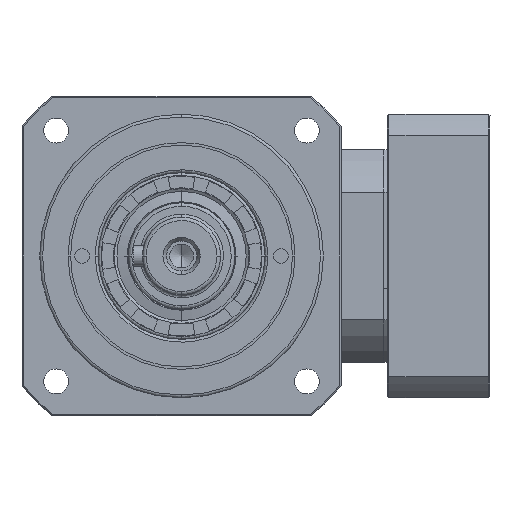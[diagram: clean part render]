
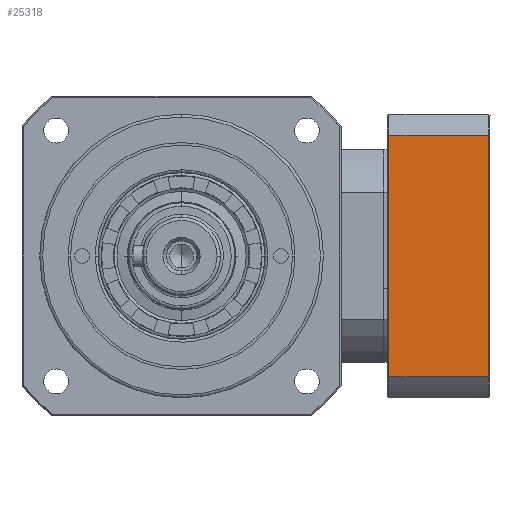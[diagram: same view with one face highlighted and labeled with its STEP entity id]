
A CAD part, left-side view. The second image highlights one B-rep face of the part: STEP entity #25318.
In plain terms, the highlighted planar face has unit normal (-1, 0, 0).
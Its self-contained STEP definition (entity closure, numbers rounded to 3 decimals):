
#973 = ORIENTED_EDGE ( 'NONE', *, *, #47470, .T. ) ;
#1813 = VERTEX_POINT ( 'NONE', #36368 ) ;
#9056 = CARTESIAN_POINT ( 'NONE',  ( 20.367, -79.693, 55.996 ) ) ;
#11210 = DIRECTION ( 'NONE',  ( 0., 0., 1. ) ) ;
#12325 = DIRECTION ( 'NONE',  ( 0., 0., 1. ) ) ;
#13663 = VECTOR ( 'NONE', #16896, 1000. ) ;
#14687 = CARTESIAN_POINT ( 'NONE',  ( 20.367, -65.693, 124.004 ) ) ;
#16896 = DIRECTION ( 'NONE',  ( 0., -1., 0. ) ) ;
#17425 = CARTESIAN_POINT ( 'NONE',  ( 20.367, -51.693, 90. ) ) ;
#17758 = FACE_OUTER_BOUND ( 'NONE', #83946, .T. ) ;
#20887 = LINE ( 'NONE', #21324, #24036 ) ;
#21324 = CARTESIAN_POINT ( 'NONE',  ( 20.367, -79.693, 90. ) ) ;
#24036 = VECTOR ( 'NONE', #12325, 1000. ) ;
#25178 = EDGE_CURVE ( 'NONE', #1813, #77115, #43526, .T. ) ;
#25318 = ADVANCED_FACE ( 'NONE', ( #17758 ), #30415, .T. ) ;
#27997 = CARTESIAN_POINT ( 'NONE',  ( 20.367, -79.693, 124.004 ) ) ;
#30415 = PLANE ( 'NONE',  #47106 ) ;
#30596 = CARTESIAN_POINT ( 'NONE',  ( 20.367, -51.693, 124.004 ) ) ;
#33577 = VERTEX_POINT ( 'NONE', #30596 ) ;
#36368 = CARTESIAN_POINT ( 'NONE',  ( 20.367, -51.693, 55.996 ) ) ;
#37410 = CARTESIAN_POINT ( 'NONE',  ( 20.367, -79.693, 55.996 ) ) ;
#41151 = ORIENTED_EDGE ( 'NONE', *, *, #60443, .T. ) ;
#41302 = DIRECTION ( 'NONE',  ( 0., 1., 0. ) ) ;
#43526 = LINE ( 'NONE', #57473, #13663 ) ;
#47106 = AXIS2_PLACEMENT_3D ( 'NONE', #37410, #64052, #11210 ) ;
#47470 = EDGE_CURVE ( 'NONE', #77115, #53607, #20887, .T. ) ;
#50270 = ORIENTED_EDGE ( 'NONE', *, *, #25178, .T. ) ;
#50453 = ORIENTED_EDGE ( 'NONE', *, *, #67269, .T. ) ;
#50598 = LINE ( 'NONE', #17425, #60367 ) ;
#53607 = VERTEX_POINT ( 'NONE', #27997 ) ;
#56695 = DIRECTION ( 'NONE',  ( 0., 0., -1. ) ) ;
#57473 = CARTESIAN_POINT ( 'NONE',  ( 20.367, -65.693, 55.996 ) ) ;
#60367 = VECTOR ( 'NONE', #56695, 1000. ) ;
#60443 = EDGE_CURVE ( 'NONE', #53607, #33577, #74482, .T. ) ;
#64052 = DIRECTION ( 'NONE',  ( -1., 0., 0. ) ) ;
#67269 = EDGE_CURVE ( 'NONE', #33577, #1813, #50598, .T. ) ;
#74482 = LINE ( 'NONE', #14687, #77866 ) ;
#77115 = VERTEX_POINT ( 'NONE', #9056 ) ;
#77866 = VECTOR ( 'NONE', #41302, 1000. ) ;
#83946 = EDGE_LOOP ( 'NONE', ( #973, #41151, #50453, #50270 ) ) ;
